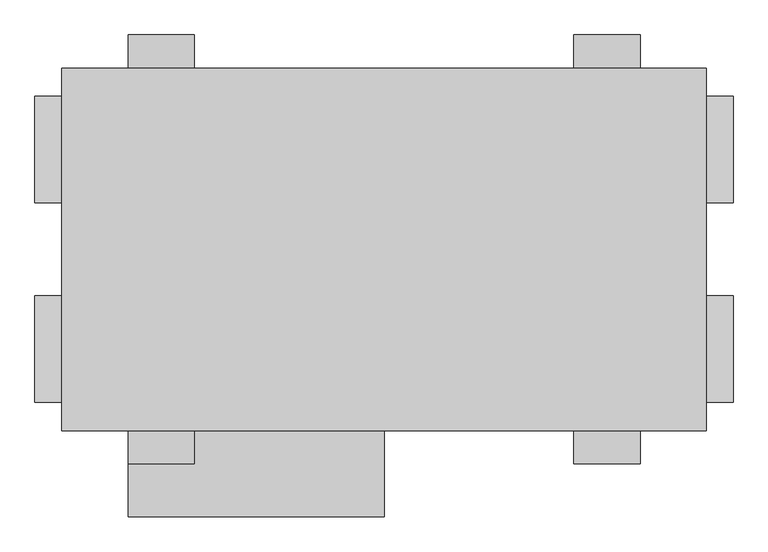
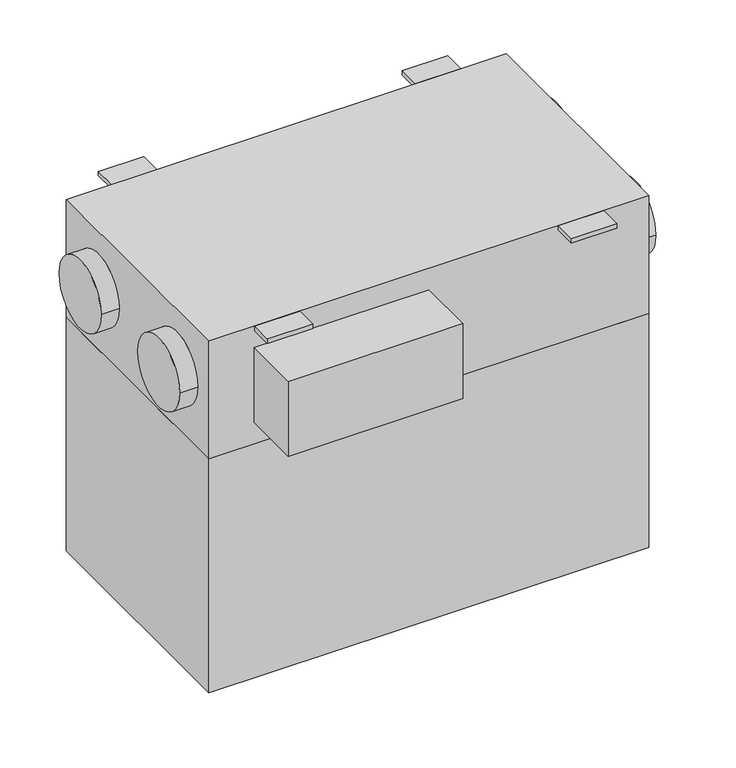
"""IFC4 building model written with IfcOpenShell, lengths in millimetres: proxy geometry, ADSK_КПВУ BRISSAGO CPE_круглая : Brissago CPE 450."""

from ifc_helpers import new_model, si_unit, frame, origin, place, context, project, spatial, polyline, circle_curve, outline, extrude, source, transform, mapped, element, save
from ifc_brep_helpers import plane_surface, cylinder_surface, advanced_brep


def mechanical_equipment_da869d93(model_context):
    return source(origin(), model_context, "Body", "SolidModel", [
        extrude(outline(polyline([(751.0, 272.5), (751.0, -272.5), (-219.0, -272.5), (-219.0, 272.5), (751.0, 272.5)])), frame((0.0, 0.0, -670.0), z_axis=(0.0, 0.0, 1.0), x_axis=(1.0, 0.0, 0.0)), (0.0, 0.0, 1.0), 545.0),
        advanced_brep(
        [(751.0, -272.5, 150.0), (751.0, -272.5, -125.0), (751.0, 272.5, -125.0), (751.0, 272.5, 150.0), (751.0, -70.0, 18.0), (751.0, -230.0, 18.0), (751.0, 230.0, 18.0), (751.0, 70.0, 18.0), (-219.0, -272.5, 150.0), (-219.0, 272.5, 150.0), (-219.0, 272.5, -125.0), (-219.0, -272.5, -125.0), (-219.0, -70.0, 18.0), (-219.0, -230.0, 18.0), (-219.0, 70.0, 18.0), (-219.0, 230.0, 18.0), (-259.0, -230.0, 18.0), (-259.0, -70.0, 18.0), (-259.0, 70.0, 18.0), (-259.0, 230.0, 18.0), (-119.0, -272.5, 100.0), (266.0, -272.5, 100.0), (266.0, -272.5, -75.0), (-119.0, -272.5, -75.0), (791.0, -230.0, 18.0), (791.0, -70.0, 18.0), (791.0, 70.0, 18.0), (791.0, 230.0, 18.0), (-119.0, -402.5, 100.0), (266.0, -402.5, 100.0), (266.0, -402.5, -75.0), (-119.0, -402.5, -75.0)],
        [
            (0, 1),
            (1, 2),
            (2, 3),
            (3, 0),
            (4, 5, circle_curve(frame((751.0, -150.0, 18.0), z_axis=(-1.0, 0.0, 0.0), x_axis=(0.0, 1.0, 0.0)), 80.0)),
            (5, 4, circle_curve(frame((751.0, -150.0, 18.0), z_axis=(-1.0, 0.0, 0.0), x_axis=(0.0, 1.0, 0.0)), 80.0)),
            (6, 7, circle_curve(frame((751.0, 150.0, 18.0), z_axis=(-1.0, 0.0, 0.0), x_axis=(0.0, 1.0, 0.0)), 80.0)),
            (7, 6, circle_curve(frame((751.0, 150.0, 18.0), z_axis=(-1.0, 0.0, 0.0), x_axis=(0.0, 1.0, 0.0)), 80.0)),
            (8, 9),
            (9, 10),
            (10, 11),
            (11, 8),
            (12, 13, circle_curve(frame((-219.0, -150.0, 18.0), z_axis=(1.0, 0.0, 0.0), x_axis=(0.0, 1.0, 0.0)), 80.0)),
            (13, 12, circle_curve(frame((-219.0, -150.0, 18.0), z_axis=(1.0, 0.0, 0.0), x_axis=(0.0, 1.0, 0.0)), 80.0)),
            (14, 15, circle_curve(frame((-219.0, 150.0, 18.0), z_axis=(1.0, 0.0, 0.0), x_axis=(0.0, 1.0, 0.0)), 80.0)),
            (15, 14, circle_curve(frame((-219.0, 150.0, 18.0), z_axis=(1.0, 0.0, 0.0), x_axis=(0.0, 1.0, 0.0)), 80.0)),
            (16, 17, circle_curve(frame((-259.0, -150.0, 18.0), z_axis=(-1.0, 0.0, 0.0), x_axis=(0.0, 1.0, 0.0)), 80.0)),
            (17, 16, circle_curve(frame((-259.0, -150.0, 18.0), z_axis=(-1.0, 0.0, 0.0), x_axis=(0.0, 1.0, 0.0)), 80.0)),
            (18, 19, circle_curve(frame((-259.0, 150.0, 18.0), z_axis=(-1.0, 0.0, 0.0), x_axis=(0.0, 1.0, 0.0)), 80.0)),
            (19, 18, circle_curve(frame((-259.0, 150.0, 18.0), z_axis=(-1.0, 0.0, 0.0), x_axis=(0.0, 1.0, 0.0)), 80.0)),
            (0, 8),
            (11, 1),
            (20, 21),
            (21, 22),
            (22, 23),
            (23, 20),
            (10, 2),
            (9, 3),
            (16, 13),
            (12, 17),
            (24, 25, circle_curve(frame((791.0, -150.0, 18.0), z_axis=(1.0, 0.0, 0.0), x_axis=(0.0, 1.0, 0.0)), 80.0)),
            (25, 24, circle_curve(frame((791.0, -150.0, 18.0), z_axis=(1.0, 0.0, 0.0), x_axis=(0.0, 1.0, 0.0)), 80.0)),
            (26, 27, circle_curve(frame((791.0, 150.0, 18.0), z_axis=(1.0, 0.0, 0.0), x_axis=(0.0, 1.0, 0.0)), 80.0)),
            (27, 26, circle_curve(frame((791.0, 150.0, 18.0), z_axis=(1.0, 0.0, 0.0), x_axis=(0.0, 1.0, 0.0)), 80.0)),
            (24, 5),
            (4, 25),
            (19, 15),
            (14, 18),
            (26, 7),
            (6, 27),
            (20, 28),
            (28, 29),
            (29, 21),
            (22, 30),
            (30, 31),
            (31, 23),
            (31, 28),
            (30, 29),
        ],
        [
            plane_surface(frame((751.0, -272.5, 150.0), z_axis=(1.0, 0.0, 0.0), x_axis=(0.0, 0.0, -1.0))),
            plane_surface(frame((-219.0, -272.5, 150.0), z_axis=(-1.0, 0.0, 0.0), x_axis=(0.0, 0.0, 1.0))),
            plane_surface(frame((-259.0, -70.0, 18.0), z_axis=(-1.0, 0.0, 0.0), x_axis=(0.0, 0.0, -1.0))),
            plane_surface(frame((751.0, -272.5, 150.0), z_axis=(0.0, -1.0, 0.0), x_axis=(-1.0, 0.0, 0.0))),
            plane_surface(frame((751.0, -272.5, -125.0), z_axis=(0.0, 0.0, -1.0), x_axis=(-1.0, 0.0, 0.0))),
            plane_surface(frame((751.0, 272.5, -125.0), z_axis=(0.0, 1.0, 0.0), x_axis=(-1.0, 0.0, 0.0))),
            plane_surface(frame((751.0, 272.5, 150.0), z_axis=(0.0, 0.0, 1.0), x_axis=(-1.0, 0.0, 0.0))),
            cylinder_surface(frame((-259.0, -150.0, 18.0), z_axis=(1.0, 0.0, 0.0), x_axis=(0.0, 1.0, 0.0)), 80.0),
            plane_surface(frame((791.0, -70.0, 18.0), z_axis=(1.0, 0.0, 0.0), x_axis=(0.0, 0.0, 1.0))),
            cylinder_surface(frame((751.0, -150.0, 18.0), z_axis=(1.0, 0.0, 0.0), x_axis=(0.0, 1.0, 0.0)), 80.0),
            cylinder_surface(frame((-259.0, 150.0, 18.0), z_axis=(1.0, 0.0, 0.0), x_axis=(0.0, 1.0, 0.0)), 80.0),
            cylinder_surface(frame((751.0, 150.0, 18.0), z_axis=(1.0, 0.0, 0.0), x_axis=(0.0, 1.0, 0.0)), 80.0),
            plane_surface(frame((-219.0, -272.5, 100.0), z_axis=(0.0, 0.0, 1.0), x_axis=(-1.0, 0.0, 0.0))),
            plane_surface(frame((-219.0, -272.5, -75.0), z_axis=(0.0, 0.0, -1.0), x_axis=(1.0, 0.0, 0.0))),
            plane_surface(frame((-119.0, -272.5, 100.0), z_axis=(-1.0, 0.0, 0.0), x_axis=(0.0, 0.0, -1.0))),
            plane_surface(frame((-119.0, -402.5, 100.0), z_axis=(0.0, -1.0, 0.0), x_axis=(0.0, 0.0, -1.0))),
            plane_surface(frame((266.0, -402.5, 100.0), z_axis=(1.0, 0.0, 0.0), x_axis=(0.0, 0.0, -1.0))),
        ],
        [
            (0, [[1, 2, 3, 4], [5, 6], [7, 8]]),
            (1, [[9, 10, 11, 12], [13, 14], [15, 16]]),
            (2, [[17, 18]]),
            (2, [[19, 20]]),
            (3, [[-1, 21, -12, 22], [23, 24, 25, 26]]),
            (4, [[-2, -22, -11, 27]]),
            (5, [[-3, -27, -10, 28]]),
            (6, [[-4, -28, -9, -21]]),
            (7, [[-17, 29, -13, 30]]),
            (7, [[-18, -30, -14, -29]]),
            (8, [[31, 32]]),
            (8, [[33, 34]]),
            (9, [[-31, 35, -5, 36]]),
            (9, [[-32, -36, -6, -35]]),
            (10, [[-20, 37, -15, 38]]),
            (10, [[-19, -38, -16, -37]]),
            (11, [[-33, 39, -7, 40]]),
            (11, [[-34, -40, -8, -39]]),
            (12, [[41, 42, 43, -23]]),
            (13, [[44, 45, 46, -25]]),
            (14, [[-41, -26, -46, 47]]),
            (15, [[-42, -47, -45, 48]]),
            (16, [[-43, -48, -44, -24]]),
        ],
    ),
        extrude(outline(polyline([(-19.0, 322.5), (-19.0, 272.5), (-119.0, 272.5), (-119.0, 322.5), (-19.0, 322.5)])), frame((0.0, 0.0, 140.0), z_axis=(0.0, 0.0, 1.0), x_axis=(1.0, 0.0, 0.0)), (0.0, 0.0, 1.0), 10.0),
        extrude(outline(polyline([(551.0, 322.5), (651.0, 322.5), (651.0, 272.5), (551.0, 272.5), (551.0, 322.5)])), frame((0.0, 0.0, 140.0), z_axis=(0.0, 0.0, 1.0), x_axis=(1.0, 0.0, 0.0)), (0.0, 0.0, 1.0), 10.0),
        extrude(outline(polyline([(-19.0, -322.5), (-119.0, -322.5), (-119.0, -272.5), (-19.0, -272.5), (-19.0, -322.5)])), frame((0.0, 0.0, 140.0), z_axis=(0.0, 0.0, 1.0), x_axis=(1.0, 0.0, 0.0)), (0.0, 0.0, 1.0), 10.0),
        extrude(outline(polyline([(551.0, -322.5), (551.0, -272.5), (651.0, -272.5), (651.0, -322.5), (551.0, -322.5)])), frame((0.0, 0.0, 140.0), z_axis=(0.0, 0.0, 1.0), x_axis=(1.0, 0.0, 0.0)), (0.0, 0.0, 1.0), 10.0),
    ])


if __name__ == "__main__":
    model = new_model("IFC4")
    model_context = context("Model", 3, world=origin())
    ifc_project = project(units=[si_unit("LENGTHUNIT", "METRE", prefix="MILLI")], contexts=[model_context])
    site = spatial("IfcSite", under=ifc_project)
    building = spatial("IfcBuilding", under=site)
    placement = place(None, origin())
    mechanical_equipment_shape = mechanical_equipment_da869d93(model_context)
    element("IfcBuildingElementProxy", 1, Name="ADSK_КПВУ BRISSAGO CPE_круглая : Brissago CPE 450", ObjectType="ADSK_КПВУ BRISSAGO CPE_круглая : Brissago CPE 450", at=placement, inside=building, context=model_context, shape_type="MappedRepresentation", body=[
        mapped(mechanical_equipment_shape, transform((0.0, 0.0, 0.0), x_axis=(1.0, 0.0, 0.0), y_axis=(0.0, 1.0, 0.0), z_axis=(0.0, 0.0, 1.0))),
    ])
    save(model, "model.ifc")
